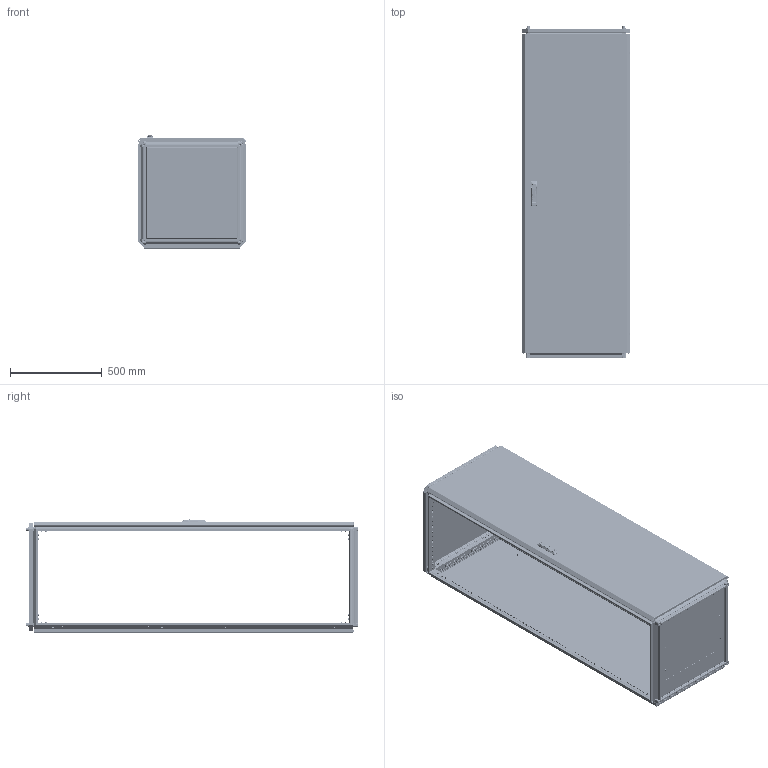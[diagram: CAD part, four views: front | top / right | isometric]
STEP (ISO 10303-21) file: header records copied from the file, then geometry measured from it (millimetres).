
FILE_DESCRIPTION (( 'STEP AP203' ), '1' );
FILE_NAME ('MA1.000.060618.10.00 AleSta1866 Øêàô AleSta 600õ600õ1800.STEP', '2024-08-23T07:45:03', ( '' ), ( '' ), 'SwSTEP 2.0', 'SolidWorks 2021', '' );
FILE_SCHEMA (( 'CONFIG_CONTROL_DESIGN' ));
Length unit declared in the file: millimetre
Products named in the file (49): äåðæàòåëü_êðóãëîé_òÿãèRG002-RG1010-2-i-RG1010-3-.stp; MA1.200.060620.31.00 Äâåðü ñïëîøíàÿ äëÿ øêàôîâ ALESTA ÂõØ 2000õ600_1800å600; MS463-2-3(1); MA1.101.060620.00.00 AleSta-RB66 Êîìïëåêò êðûøà è îñíîâàíèå_  600å600; Âèíò ñ âí. øåñòèãðàííèêîì M12 DIN912_•30; Øïèëüêà Ì6õ12_˜¯¨«ìª  Œ6å12; 7380-2 ISO Âèíòû ñ ïîëóêðóãëîé ãîëîâêîé ñ ôëàíöåì ñ âíóòðåííèì øåñòèãðàííèêîì Ì4õ10; MA1.200.060620.31.02 Ðåéêà íà äâåðü âåðòèêàëüíàÿ Â = 2000_‚=1800; MA1.100.060620.00.01 Ñîåäèíèòåëü óãëîâîé_00; 諘蜱齁罻 022 瀁錒瀔隮; MA1.200.060620.30.00 AleSta-D20M600 Äâåðü ñïëîøíàÿ äëÿ øêàôîâ ALESTA ÂõØ 2000õ600_1800å600; Ãàéêà ñàìîêîíòðÿùàÿñÿ ñ íåéëîíîâîé âñòàâêîé Ì6 DIN 985, êëàññ ïðî÷íîñòè 8, îöèíêîâàííàÿ ñòàëü_Œ5; Ïðîáêà ïëàñòèêîâàÿ óíèâåðñàëüíàÿ ïîä îòâåðñòèå 4,5 ìì, ñåðèÿ ST, öâåò áåñöâåòíûé – ST4,5; Ãàéêà ñàìîêîíòðÿùàÿñÿ ñ íåéëîíîâîé âñòàâêîé Ì6 DIN 985, êëàññ ïðî÷íîñòè 8, îöèíêîâàííàÿ ñòàëü_Œ6; MA1.101.060620.10.00 ﾊ 600x600_600x600; MA1.200.060620.31.04 ðèãåëü çàìêà äâåðè; MA1.102.060620.00.00 AleSta-VG2000 Ñòîéêè âåðòèêàëüíûå, Â=2000ìì  (4øò)_  600å600; Âèíò ñàìîíàðåçàþùèé ñ ïîòàéíîé ãîëîâêîé Ì5x14 DIN 7500 M TORX, êëàññ ïðî÷íîñòè 8.8, îöèíêîâàííàÿ ñòàëü_Œ5å14; òÿãà_lg001-2.STEP_‚ =1800; Óïëîòíèòåëü ïàíåëè íèæíåé_ 600å600; Âèíò ñàìîíàðåçàþùèé ñ ïîòàéíîé ãîëîâêîé Ì5x14 DIN 7500 M TORX, êëàññ ïðî÷íîñòè 8.8, îöèíêîâàííàÿ ñòàëü_Œ5å12; MA1.101.060620.10.01 Ïîëîòíî êðûøè 600õ600_600å600; MA1.000.060618.10.00 AleSta1866 Øêàô AleSta 600õ600õ1800; Âèíò_ðåçüáîâûäàâëèâàþùèé_Ì5õ12_DIN 7500E_Œ5å12; MA1.101.060620.20.00 Íèæíÿÿ ïàíåëü 600õ600_600å600; Øàéáà ñòîïîðíàÿ ñ íàðóæíûìè çóáöàìè SCHNORR, òèï VS öèíêîâûå õëîïüÿ Ì6 O6,4 ART 88121_Œ6; MA1.200.060620.11.01 Ïîëîòíî çàäíåé ïàíåëè 2000õ600_1800å600; Ïåòëÿ íà äâåðü ï-îáðàçíàÿ; MA1.200.060620.31.03 Ðåéêà íà äâåðü ãîðèçîíòàëüíàÿ Ø = 600_˜ = 600; ﾘ琺矜 65ﾃ 019 ﾃﾎﾑﾒ 6402-70_12; MA1.200.060620.11.00 Ïàíåëü çàäíÿÿ, äëÿ øêàôîâ AleSta, 2000x600_1800å600; êðåïëåíèå_êðóãëîé_òÿãè_RG1020-1.stp; Îñü ïåòëè 4õ52_‚¨­â A.M4x0,5x40 ƒŽ‘’ 11644-75; MA1.101.060620.00.02 Ïðîôèëü ïîïåðå÷íûé ñâàðíîé_01 L=498 (˜=600); Âèíò_ðåçüáîâûäàâëèâàþùèé_Ì5õ12_DIN 7500E_00; Áîëò øåñòèãðàííûé Ì5õ12 DIN 933, êëàññ ïðî÷íîñòè 8.8, îöèíêîâàííàÿ ñòàëü; Âèíò ðåçüáîâûäàâëèâàþùèé Ì6õ12 DIN 7500E_Œ6å10; ﾇﾀﾊﾋﾅﾏﾊﾀ ﾃﾀﾅﾗﾍﾀﾟ ﾘﾅﾑﾒﾈﾃﾐﾀﾍﾍﾀﾟ ﾑ ﾓﾌﾅﾍﾜﾘﾅﾍﾍﾛﾌ ﾁﾎﾐﾒﾎﾌ M4 X 11 (0.5-2.5 ﾌﾌ) HEX U-S ﾖﾈﾍﾊ; MA1.102.060620.00.01 Ïðîôèëü âåðòèêàëüíûé ñâàðíîé_03 L=1698 (‚=1800); MA1.200.060620.31.05 Óãëîâîé óïîð äâåðíîé òÿãè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
Assembly tree (337 placements, depth 4):
  Ïðîáêà ïëàñòèêîâàÿ óíèâåðñàëüíàÿ ïîä îòâåðñòèå 4,5 ìì, ñåðèÿ ST, öâåò áåñöâåòíûé – ST4,5
  MA1.000.060618.10.00 AleSta1866 Øêàô AleSta 600õ600õ1800
    MA1.101.060620.00.00 AleSta-RB66 Êîìïëåêò êðûøà è îñíîâàíèå_  600å600
      MA1.101.060620.00.02 Ïðîôèëü ïîïåðå÷íûé ñâàðíîé_01 L=498 (˜=600)  x8
      MA1.101.060620.10.00 ﾊ 600x600_600x600
        MA1.101.060620.10.01 Ïîëîòíî êðûøè 600õ600_600å600
        Øïèëüêà Ì6õ12_˜¯¨«ìª  Œ6å12  x4
        Óïëîòíèòåëü ïàíåëè íèæíåé_ 600å600
      MA1.101.060620.20.00 Íèæíÿÿ ïàíåëü 600õ600_600å600
        MA1.101.060620.20.01 Ïîëîòíî íèæíåé ïàíåëè 600õ600_600å600
        ﾇﾀﾊﾋﾅﾏﾊﾀ ﾃﾀﾅﾗﾍﾀﾟ ﾘﾅﾑﾒﾈﾃﾐﾀﾍﾍﾀﾟ ﾑ ﾓﾌﾅﾍﾜﾘﾅﾍﾍﾛﾌ ﾁﾎﾐﾒﾎﾌ M4 X 11 (0.5-2.5 ﾌﾌ) HEX U-S ﾖﾈﾍﾊ  x4
        MA1.101.060620.20.02 Çàêðûòèå íèæíåé ïàíåëè 600õ600_600å600  x2
        7380-2 ISO Âèíòû ñ ïîëóêðóãëîé ãîëîâêîé ñ ôëàíöåì ñ âíóòðåííèì øåñòèãðàííèêîì Ì4õ10  x4
      Âèíò_ðåçüáîâûäàâëèâàþùèé_Ì5õ12_DIN 7500E_Œ5å12  x8
      MA1.100.060620.00.01 Ñîåäèíèòåëü óãëîâîé_00  x8
      Âèíò ñ âí. øåñòèãðàííèêîì M12 DIN912_•30  x4
      Âèíò ðåçüáîâûäàâëèâàþùèé Ì6õ12 DIN 7500E_Œ6å10  x96
      ﾘ琺矜 01.019 ﾃﾎﾑﾒ11371-78_12  x4
      ﾘ琺矜 65ﾃ 019 ﾃﾎﾑﾒ 6402-70_12  x4
      Øàéáà ñòîïîðíàÿ ñ íàðóæíûìè çóáöàìè SCHNORR, òèï VS öèíêîâûå õëîïüÿ Ì6 O6,4 ART 88121_Œ6  x80
    MA1.102.060620.00.00 AleSta-VG2000 Ñòîéêè âåðòèêàëüíûå, Â=2000ìì  (4øò)_  600å600
      MA1.102.060620.00.01 Ïðîôèëü âåðòèêàëüíûé ñâàðíîé_03 L=1698 (‚=1800)  x4
    MA1.200.060620.10.00 AleSta-PR206  Ïàíåëü çàäíÿÿ, äëÿ øêàôîâ ALESTA, 2000 x 600_1800å600
      MA1.200.060620.11.00 Ïàíåëü çàäíÿÿ, äëÿ øêàôîâ AleSta, 2000x600_1800å600
        MA1.200.060620.11.01 Ïîëîòíî çàäíåé ïàíåëè 2000õ600_1800å600
        Óïëîòíèòåëü ïàíåëè íèæíåé_‚=1800
        Øïèëüêà Ì6õ12_˜¯¨«ìª  Œ6å12  x4
      Âèíò ñàìîíàðåçàþùèé ñ ïîòàéíîé ãîëîâêîé Ì5x14 DIN 7500 M TORX, êëàññ ïðî÷íîñòè 8.8, îöèíêîâàííàÿ ñòàëü_Œ5å14  x8
    MA1.200.060620.30.00 AleSta-D20M600 Äâåðü ñïëîøíàÿ äëÿ øêàôîâ ALESTA ÂõØ 2000õ600_1800å600
      MA1.200.060620.31.00 Äâåðü ñïëîøíàÿ äëÿ øêàôîâ ALESTA ÂõØ 2000õ600_1800å600
        MA1.200.060620.31.01 Ïîëîòíî äâåðè ñïëîøíîé 2000õ600_1800å600
        Óïëîòíèòåëü ïàíåëè íèæíåé_‚=1800
        Øïèëüêà Ì6õ12_˜¯¨«ìª  Œ6å20  x16
        Øïèëüêà Ì6õ12_˜¯¨«ìª  Œ6å16  x4
        Ïåòëÿ íà äâåðü ï-îáðàçíàÿ  x4
      MA1.200.060620.31.03 Ðåéêà íà äâåðü ãîðèçîíòàëüíàÿ Ø = 600_˜ = 600  x2
      諘蜱齁罻 022 瀁錒瀔隮  x4
      MA1.200.060620.31.02 Ðåéêà íà äâåðü âåðòèêàëüíàÿ Â = 2000_‚=1800  x2
      äåðæàòåëü_êðóãëîé_òÿãèRG002-RG1010-2-i-RG1010-3-.stp  x2
      òÿãà_lg001-2.STEP_‚ =1800  x2
      êðåïëåíèå_êðóãëîé_òÿãè_RG1020-1.stp  x2
      MS463-2-3(1)
      Ãàéêà ñàìîêîíòðÿùàÿñÿ ñ íåéëîíîâîé âñòàâêîé Ì6 DIN 985, êëàññ ïðî÷íîñòè 8, îöèíêîâàííàÿ ñòàëü_Œ6  x16
      Ãàéêà ñàìîêîíòðÿùàÿñÿ ñ íåéëîíîâîé âñòàâêîé Ì6 DIN 985, êëàññ ïðî÷íîñòè 8, îöèíêîâàííàÿ ñòàëü_Œ5  x2
      Áîëò øåñòèãðàííûé Ì5õ12 DIN 933, êëàññ ïðî÷íîñòè 8.8, îöèíêîâàííàÿ ñòàëü  x2
      MA1.200.060620.31.04 ðèãåëü çàìêà äâåðè
      MA1.200.060620.31.05 Óãëîâîé óïîð äâåðíîé òÿãè  x2
      Âèíò_ðåçüáîâûäàâëèâàþùèé_Ì5õ12_DIN 7500E_00  x2
      Íàâåñêà íà êîðïóñ ïîä êëåïêó  x4
      Îñü ïåòëè 4õ52_‚¨­â A.M4x0,5x40 ƒŽ‘’ 11644-75  x4
      Âèíò ñàìîíàðåçàþùèé ñ ïîòàéíîé ãîëîâêîé Ì5x14 DIN 7500 M TORX, êëàññ ïðî÷íîñòè 8.8, îöèíêîâàííàÿ ñòàëü_Œ5å12  x8
Bounding box: 592 x 1810.9 x 616.8 mm (x, y, z)
Volume: 8541423.7 mm3; surface area: 10734875.6 mm2
Topology: 364 solids, 378 shells, 23403 faces, 60246 edges, 37672 vertices
Faces by surface type: plane 13993, cylinder 6717, bspline 921, cone 845, torus 829, sphere 98
Entity records: 235469 total; most frequent: CARTESIAN_POINT 77619, ORIENTED_EDGE 30078, DIRECTION 29538, EDGE_CURVE 15056, AXIS2_PLACEMENT_3D 10188, VERTEX_POINT 9377, VECTOR 9162, LINE 9162
